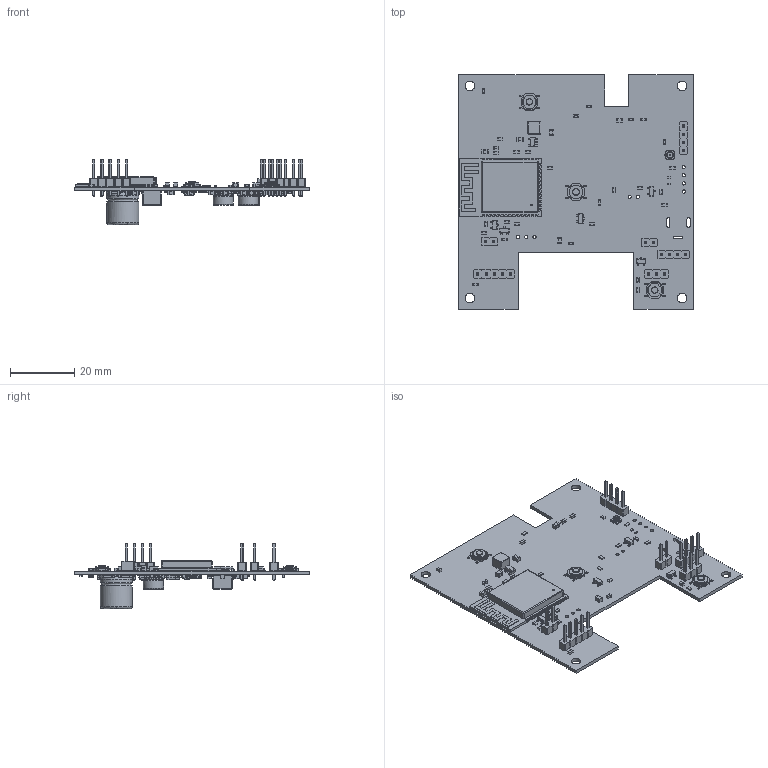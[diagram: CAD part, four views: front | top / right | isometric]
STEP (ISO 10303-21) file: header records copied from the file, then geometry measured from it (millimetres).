
FILE_DESCRIPTION(('KiCad electronic assembly'),'2;1');
FILE_NAME('voice-mainboard-models.step','2026-11-27T08:41:37',('Pcbnew') ,('Kicad'),'Open CASCADE STEP processor 7.9','KiCad to STEP converter' ,'Unknown');
FILE_SCHEMA(('AUTOMOTIVE_DESIGN { 1 0 10303 214 1 1 1 1 }'));
Length unit declared in the file: millimetre
Products named in the file (23): voice-mainboard-models 1; R_0603_1608Metric; SOT-23-5; SOT-23; C_0603_1608Metric; C_0805_2012Metric; L_Sunlord_SWPA4030S; voice-mainboard-models 1.8.1; PinHeader_1x02_P2.54mm_Vertical; SW_SPST_TL3342; PinHeader_1x05_P2.54mm_Vertical; PinHeader_1x03_P2.54mm_Vertical; PinHeader_1x04_P2.54mm_Vertical; ESP32-S3-WROOM-1; U.FL_Hirose_U.FL-R-SMT-1_Vertical; R_0402_1005Metric; CP_Elec_10x10.5; SOT-23-6; L_Sunlord_SWPA6045S; voice-mainboard-models 1.64.1; SOIC-8-1EP_3.9x4.9mm_P1.27mm_EP2.29x3mm; CP_Elec_6.3x4.5; voice_mainboard_a18_2layer_PCB
Assembly tree (113 placements, depth 3):
  voice-mainboard-models 1
    R_0603_1608Metric  x39
    SOT-23-5  x2
    SOT-23  x8
    C_0603_1608Metric  x21
    C_0805_2012Metric  x16
    L_Sunlord_SWPA4030S
      voice-mainboard-models 1.8.1
    PinHeader_1x02_P2.54mm_Vertical  x2
    SW_SPST_TL3342  x3
    PinHeader_1x05_P2.54mm_Vertical
    PinHeader_1x03_P2.54mm_Vertical
    PinHeader_1x04_P2.54mm_Vertical  x2
    ESP32-S3-WROOM-1
    U.FL_Hirose_U.FL-R-SMT-1_Vertical
    R_0402_1005Metric  x2
    CP_Elec_10x10.5
    SOT-23-6  x4
    L_Sunlord_SWPA6045S  x2
      voice-mainboard-models 1.64.1
    SOIC-8-1EP_3.9x4.9mm_P1.27mm_EP2.29x3mm
    CP_Elec_6.3x4.5  x2
    voice_mainboard_a18_2layer_PCB
Bounding box: 73 x 73 x 20.32 mm (x, y, z)
Volume: 8196.5 mm3; surface area: 15446.3 mm2
Topology: 168 solids, 171 shells, 6190 faces, 15664 edges, 9965 vertices
Faces by surface type: plane 4508, cylinder 1350, bspline 294, sphere 17, torus 15, cone 3, revolution 3
Full cylindrical faces by diameter (mm): 0.3 x12, 0.4 x1, 0.5 x1, 1 x29, 1.8 x1, 1.92 x1, 2 x5, 3 x4, 6.3 x4, 10 x2
Entity records: 96758 total; most frequent: CARTESIAN_POINT 14836, ORIENTED_EDGE 12960, DIRECTION 12400, EDGE_CURVE 6480, LINE 5588, VECTOR 5588, VERTEX_POINT 4047, AXIS2_PLACEMENT_3D 3405
